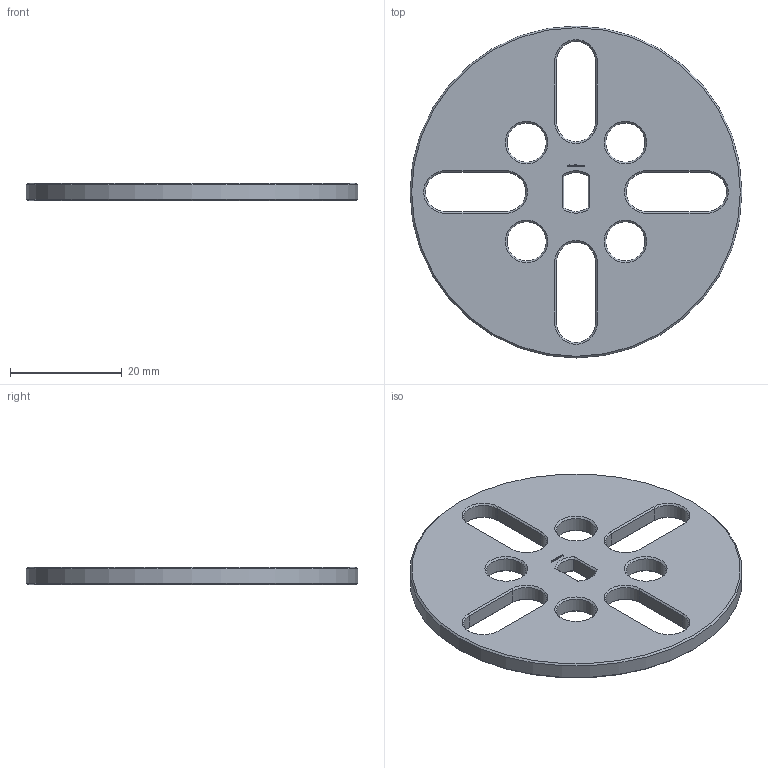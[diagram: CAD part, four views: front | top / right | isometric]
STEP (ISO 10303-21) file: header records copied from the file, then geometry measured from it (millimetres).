
FILE_DESCRIPTION(/* description */ (''),/* implementation_level */ '2;1');
FILE_NAME(/* name */ '/Users/paulokiefe/Desktop/STEMFIE/Fasteners/Washers/Fixed/Washer WSR FXD BU0.25x4.75 - SPN-WSR-0016 v1.step',/* time_stamp */ '2020-09-27T23:17:43+02:00',/* author */ (''),/* organization */ (''),/* preprocessor_version */ 'ST-DEVELOPER v18.1',/* originating_system */ 'Autodesk Translation Framework v9.3.0.1241',/* authorisation */ '');
FILE_SCHEMA (('AUTOMOTIVE_DESIGN { 1 0 10303 214 3 1 1 }'));
Length unit declared in the file: millimetre
Products named in the file (1): Washer WSR FXD BU0.25x4.75 - SPN-WSR-0016
Bounding box: 59.38 x 59.38 x 3.12 mm (x, y, z)
Volume: 6601.2 mm3; surface area: 5559.3 mm2
Topology: 1 solids, 1 shells, 321 faces, 871 edges, 564 vertices
Faces by surface type: plane 276, cone 30, cylinder 15
Full cylindrical faces by diameter (mm): 7 x4, 59.375 x1
Entity records: 9962 total; most frequent: CARTESIAN_POINT 1781, ORIENTED_EDGE 1742, DIRECTION 1567, EDGE_CURVE 871, LINE 803, VECTOR 803, VERTEX_POINT 564, AXIS2_PLACEMENT_3D 382
